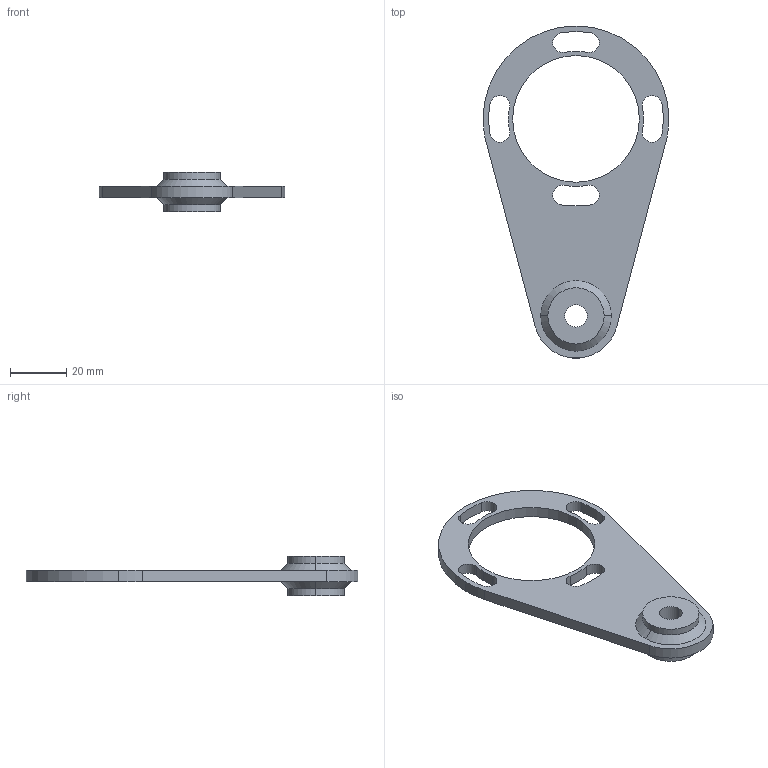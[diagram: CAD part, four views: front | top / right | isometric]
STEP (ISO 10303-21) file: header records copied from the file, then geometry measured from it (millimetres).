
FILE_DESCRIPTION (( 'STEP AP214' ), '1' );
FILE_NAME ('Drehmomentstütze_CMRV025.STEP', '2018-04-23T11:08:34', ( '' ), ( '' ), 'SwSTEP 2.0', 'SolidWorks 2012', '' );
FILE_SCHEMA (( 'AUTOMOTIVE_DESIGN' ));
Length unit declared in the file: millimetre
Products named in the file (1): Drehmomentstütze_CMRV025
Bounding box: 66 x 117.94 x 14 mm (x, y, z)
Volume: 16953.6 mm3; surface area: 10163.4 mm2
Topology: 1 solids, 1 shells, 44 faces, 116 edges, 76 vertices
Faces by surface type: cylinder 34, plane 6, cone 4
Entity records: 1942 total; most frequent: DIRECTION 278, CARTESIAN_POINT 237, ORIENTED_EDGE 232, AXIS2_PLACEMENT_3D 117, EDGE_CURVE 116, VERTEX_POINT 76, CIRCLE 72, EDGE_LOOP 58
